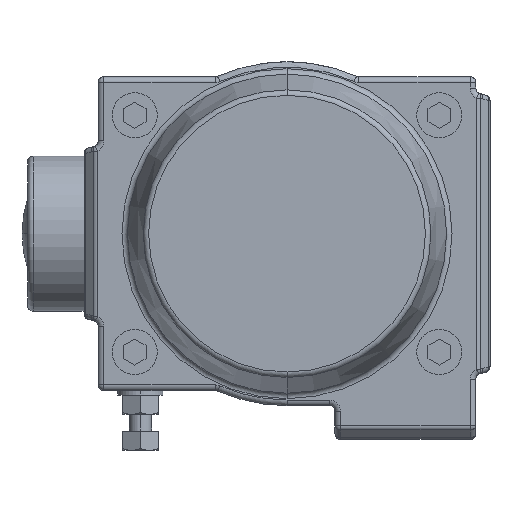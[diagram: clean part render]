
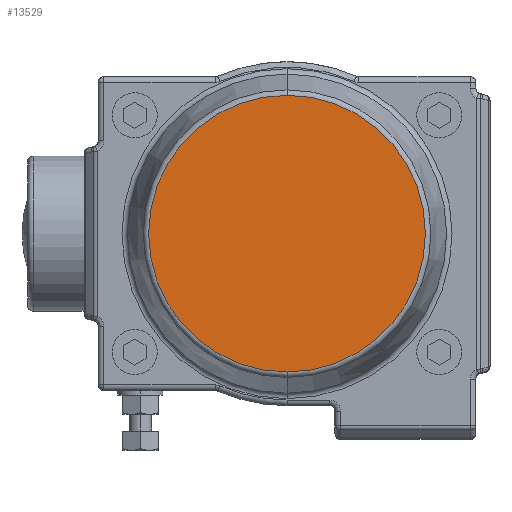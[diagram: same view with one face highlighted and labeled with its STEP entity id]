
A CAD part, left-side view. The second image highlights one B-rep face of the part: STEP entity #13529.
In plain terms, the highlighted planar face has unit normal (-1, 0, 0).
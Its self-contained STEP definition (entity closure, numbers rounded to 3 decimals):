
#945 = CARTESIAN_POINT ( 'NONE',  ( -149., 0., 0. ) ) ;
#2666 = CARTESIAN_POINT ( 'NONE',  ( -149., 0., 49.077 ) ) ;
#4020 = ORIENTED_EDGE ( 'NONE', *, *, #10148, .T. ) ;
#4468 = AXIS2_PLACEMENT_3D ( 'NONE', #945, #9245, #10253 ) ;
#4996 = FACE_OUTER_BOUND ( 'NONE', #6923, .T. ) ;
#5395 = AXIS2_PLACEMENT_3D ( 'NONE', #10348, #15155, #10443 ) ;
#6923 = EDGE_LOOP ( 'NONE', ( #4020, #9546 ) ) ;
#7345 = DIRECTION ( 'NONE',  ( 0., 0., 1. ) ) ;
#7815 = EDGE_CURVE ( 'NONE', #7885, #10639, #14561, .T. ) ;
#7885 = VERTEX_POINT ( 'NONE', #15211 ) ;
#9245 = DIRECTION ( 'NONE',  ( -1., 0., 0. ) ) ;
#9546 = ORIENTED_EDGE ( 'NONE', *, *, #7815, .T. ) ;
#10148 = EDGE_CURVE ( 'NONE', #10639, #7885, #12495, .T. ) ;
#10253 = DIRECTION ( 'NONE',  ( 0., 0., 1. ) ) ;
#10348 = CARTESIAN_POINT ( 'NONE',  ( -149., 0., 0. ) ) ;
#10443 = DIRECTION ( 'NONE',  ( 0., 0., 1. ) ) ;
#10639 = VERTEX_POINT ( 'NONE', #2666 ) ;
#12495 = CIRCLE ( 'NONE', #13412, 49.077 ) ;
#13162 = CARTESIAN_POINT ( 'NONE',  ( -149., 0., 0. ) ) ;
#13412 = AXIS2_PLACEMENT_3D ( 'NONE', #13162, #14480, #7345 ) ;
#13529 = ADVANCED_FACE ( 'NONE', ( #4996 ), #13971, .T. ) ;
#13971 = PLANE ( 'NONE',  #5395 ) ;
#14480 = DIRECTION ( 'NONE',  ( -1., 0., 0. ) ) ;
#14561 = CIRCLE ( 'NONE', #4468, 49.077 ) ;
#15155 = DIRECTION ( 'NONE',  ( -1., 0., 0. ) ) ;
#15211 = CARTESIAN_POINT ( 'NONE',  ( -149., 0., -49.077 ) ) ;
